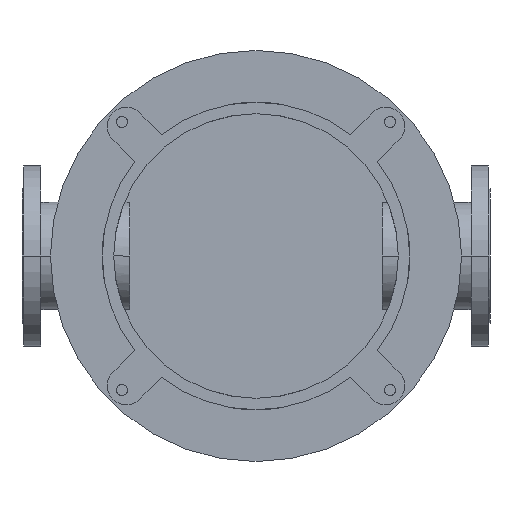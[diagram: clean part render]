
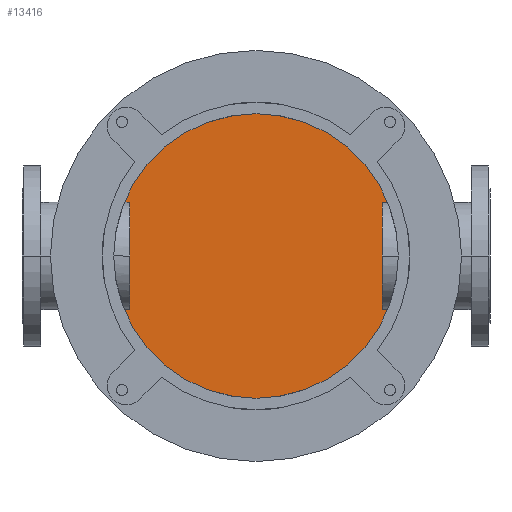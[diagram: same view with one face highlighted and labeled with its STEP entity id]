
A CAD part, front view. The second image highlights one B-rep face of the part: STEP entity #13416.
In plain terms, the highlighted planar face has unit normal (0, -1, 0).
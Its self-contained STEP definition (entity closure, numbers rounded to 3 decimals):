
#2801=CARTESIAN_POINT('',(0.,836.,0.));
#2802=DIRECTION('',(0.,-1.,0.));
#2803=DIRECTION('',(0.,0.,1.));
#2804=AXIS2_PLACEMENT_3D('',#2801,#2802,#2803);
#2928=CARTESIAN_POINT('',(0.,836.,0.));
#2929=DIRECTION('',(0.,-1.,0.));
#2930=DIRECTION('',(0.,0.,-1.));
#2931=AXIS2_PLACEMENT_3D('',#2928,#2929,#2930);
#8569=CARTESIAN_POINT('',(0.,836.,240.));
#8570=CARTESIAN_POINT('',(0.,836.,-240.));
#8571=VERTEX_POINT('',#8569);
#8572=VERTEX_POINT('',#8570);
#13406=CARTESIAN_POINT('',(0.,836.,0.));
#13407=DIRECTION('',(0.,1.,0.));
#13408=DIRECTION('',(0.,0.,-1.));
#13409=AXIS2_PLACEMENT_3D('',#13406,#13407,#13408);
#13410=PLANE('',#13409);
#13411=ORIENTED_EDGE('',*,*,#13390,.F.);
#13413=ORIENTED_EDGE('',*,*,#13412,.F.);
#13414=EDGE_LOOP('',(#13411,#13413));
#13415=FACE_OUTER_BOUND('',#13414,.F.);
#13416=ADVANCED_FACE('',(#13415),#13410,.F.);
#2805=CIRCLE('',#2804,240.);
#2932=CIRCLE('',#2931,240.);
#13390=EDGE_CURVE('',#8571,#8572,#2805,.T.);
#13412=EDGE_CURVE('',#8572,#8571,#2932,.T.);
